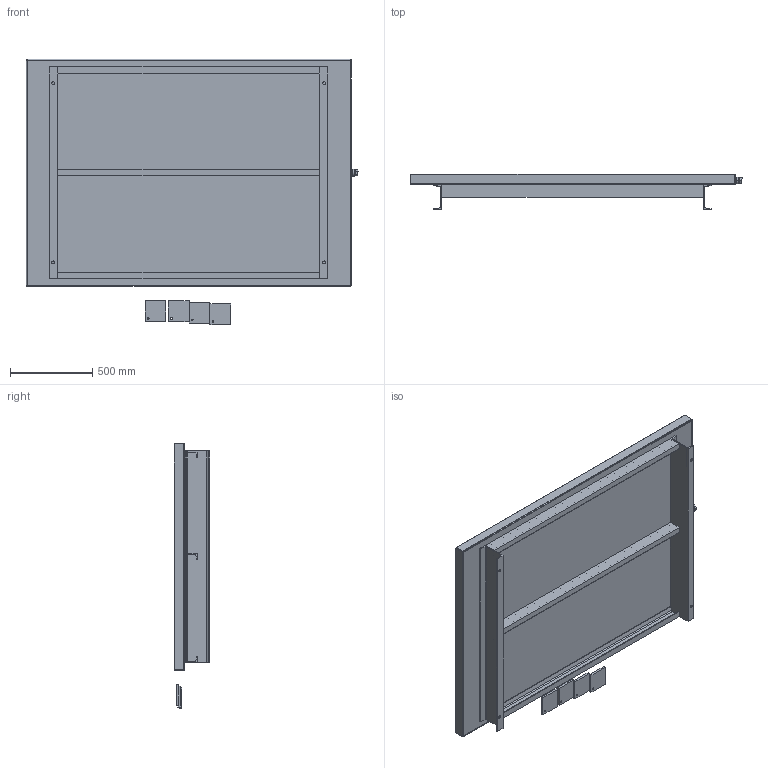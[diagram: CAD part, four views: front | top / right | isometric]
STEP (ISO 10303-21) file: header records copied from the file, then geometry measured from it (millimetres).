
FILE_DESCRIPTION (( 'STEP AP214' ), '1' );
FILE_NAME ('TDP-400-500.STEP', '2026-04-22T13:21:47', ( '' ), ( '' ), 'SwSTEP 2.0', 'SolidWorks 2026', '' );
FILE_SCHEMA (( 'AUTOMOTIVE_DESIGN' ));
Length unit declared in the file: inch
Products named in the file (7): TDP-400-500; C3-TDP-400-500_Default<As Welded>; C6-TDP-400-500_Default<As Welded>; #12 SAE DRAIN; TDP-PAD400-500-600-700; #12 SAE PLUG
Assembly tree (12 placements, depth 2):
  TDP-400-500
    TDP-400-500
    C6-TDP-400-500_Default<As Welded>  x2
    C3-TDP-400-500_Default<As Welded>  x3
    #12 SAE DRAIN
    #12 SAE PLUG
    TDP-PAD400-500-600-700  x4
Bounding box: 2022.47 x 215.9 x 1618.44 mm (x, y, z)
Volume: 24560232.3 mm3; surface area: 8989364 mm2
Topology: 12 solids, 12 shells, 177 faces, 414 edges, 264 vertices
Faces by surface type: plane 109, cylinder 54, bspline 8, cone 6
Entity records: 3744 total; most frequent: CARTESIAN_POINT 1090, DIRECTION 500, ORIENTED_EDGE 480, EDGE_CURVE 240, LINE 168, VECTOR 168, AXIS2_PLACEMENT_3D 166, VERTEX_POINT 148
